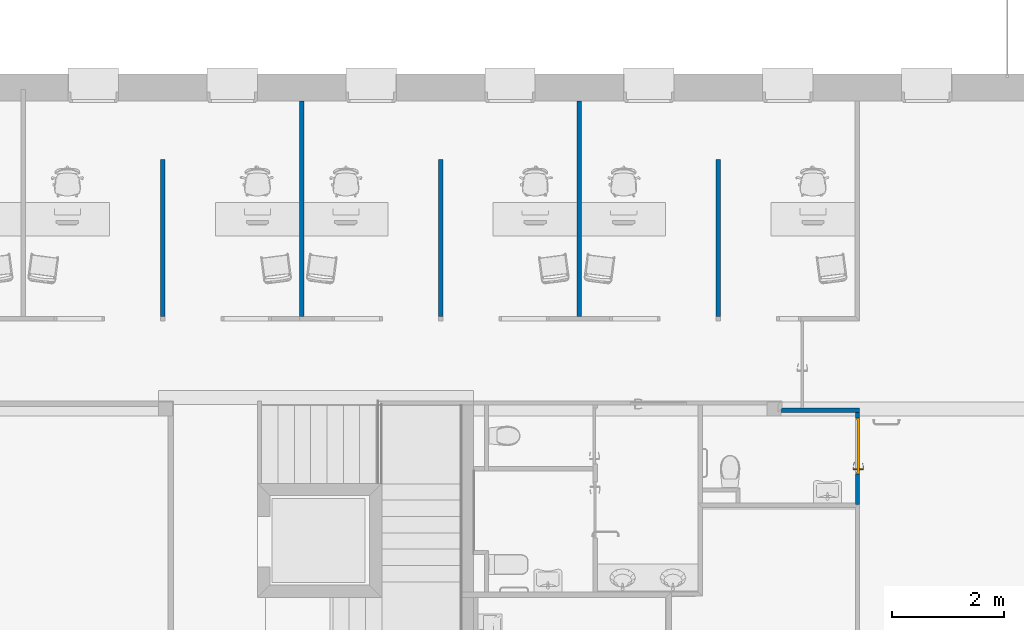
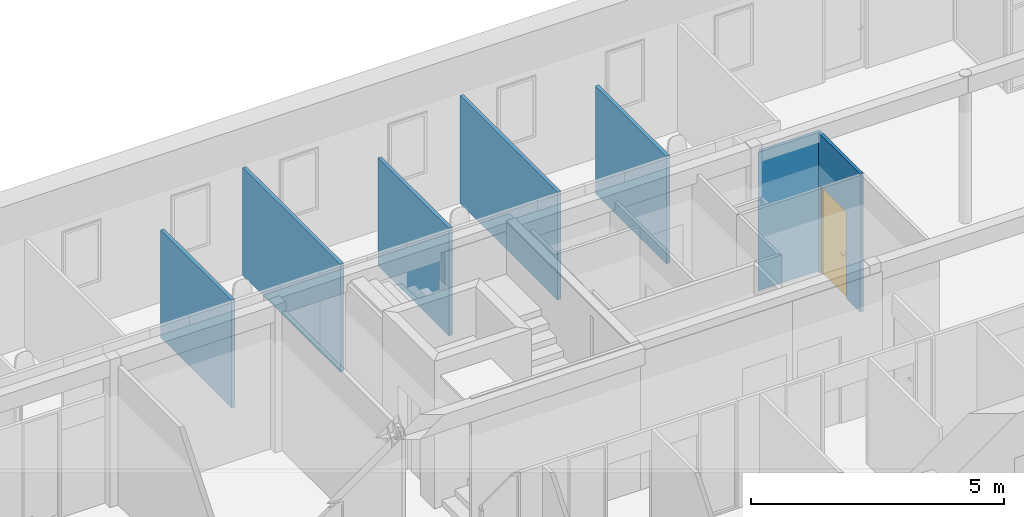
# One storey, part 26 of 91: 7 walls, 1 door, 1 opening.
"""IFC2X3 building model written with IfcOpenShell, lengths in metres."""

from ifc_helpers import new_model, entity, si_unit, converted_unit, derived_unit, money_unit, direction, frame, origin_with_axes, origin_2d_with_axis, place, context, subcontext, project, spatial, polyline, rectangle, outline, extrude, open_shell, faceted_brep, surface_model, source, transform, mapped, material, layer, layer_set, layer_usage, type_object, element, fill, save


model = new_model("IFC2X3")

# Units and contexts
model_context = context("Model", 3, precision=1e-05, world=origin_with_axes(), true_north=direction((0.0, 1.0)))
body_context = subcontext(model_context, "Body", "Model", "MODEL_VIEW")
ifc_project = project(units=[si_unit("LENGTHUNIT", "METRE"), si_unit("AREAUNIT", "SQUARE_METRE"), si_unit("VOLUMEUNIT", "CUBIC_METRE"), converted_unit("PLANEANGLEUNIT", "DEGREE", entity("IfcPlaneAngleMeasure", 0.0174532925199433), si_unit("PLANEANGLEUNIT", "RADIAN"), dimensions=[0, 0, 0, 0, 0, 0, 0]), money_unit("EUR"), converted_unit("TIMEUNIT", "Year", entity("IfcTimeMeasure", 31557600.0), si_unit("TIMEUNIT", "SECOND"), dimensions=[0, 0, 1, 0, 0, 0, 0]), si_unit("MASSUNIT", "GRAM", prefix="KILO"), si_unit("THERMODYNAMICTEMPERATUREUNIT", "DEGREE_CELSIUS"), si_unit("LUMINOUSINTENSITYUNIT", "LUMEN"), si_unit("ENERGYUNIT", "JOULE", prefix="MEGA"), derived_unit("THERMALCONDUCTANCEUNIT", [(si_unit("POWERUNIT", "WATT"), 1), (si_unit("LENGTHUNIT", "METRE"), -1), (si_unit("THERMODYNAMICTEMPERATUREUNIT", "KELVIN"), -1)]), derived_unit("SPECIFICHEATCAPACITYUNIT", [(si_unit("ENERGYUNIT", "JOULE"), 1), (si_unit("MASSUNIT", "GRAM", prefix="KILO"), -1), (si_unit("THERMODYNAMICTEMPERATUREUNIT", "KELVIN"), -1)]), derived_unit("MASSDENSITYUNIT", [(si_unit("MASSUNIT", "GRAM", prefix="KILO"), 1), (si_unit("VOLUMEUNIT", "CUBIC_METRE"), -1)])], contexts=[model_context])

# Site, building, storey
site_placement = place(None, origin_with_axes())
site = spatial("IfcSite", under=ifc_project, at=site_placement, Name="Site", CompositionType="ELEMENT")
building_placement = place(site_placement, origin_with_axes())
building = spatial("IfcBuilding", under=site, at=building_placement, Name="Bâtiment", CompositionType="ELEMENT")
storey_placement = place(building_placement, origin_with_axes())
storey = spatial("IfcBuildingStorey", under=building, at=storey_placement, Name="RDC", CompositionType="ELEMENT", Elevation=0.0)

# Wall
ifc_material_1 = material(Name="Finition int - Plaque de plâtre")
ifc_layer_1 = layer(ifc_material_1, 0.013, ventilated="UNKNOWN")
ifc_material_2 = material(Name="Isolation - Laine de verre")
ifc_layer_2 = layer(ifc_material_2, 0.048, ventilated="UNKNOWN")
ifc_layer_3 = layer(ifc_material_1, 0.013, ventilated="UNKNOWN")
ifc_layer_set_1 = layer_set([ifc_layer_1, ifc_layer_2, ifc_layer_3], Name="*Cloison 72")
ifc_layer_usage_1 = layer_usage(ifc_layer_set_1, "AXIS2", "POSITIVE", 0.0)
wall_type_1 = type_object("IfcWallType", Name="*Cloison 72 74", PredefinedType="NOTDEFINED")
wall_1_placement = place(storey_placement, frame((44.94299999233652, -16.74756236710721, 0.0), z_axis=(0.0, 0.0, 1.0), x_axis=(-1.0, 0.0, 0.0)))
element("IfcWallStandardCase", 1, at=wall_1_placement, inside=storey, type_object=wall_type_1, material=ifc_layer_usage_1, Name="Cloisons ép. 72mm", context=body_context, shape_type="SweptSolid", body=[
    extrude(outline(polyline([(0.0, 0.0), (1.383002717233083, 0.0), (1.457002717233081, 0.07400000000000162), (0.0, 0.07400000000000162), (0.0, 0.0)])), origin_with_axes(), (0.0, 0.0, 1.0), 3.34),
])

# Wall, opening, door
ifc_layer_usage_2 = layer_usage(ifc_layer_set_1, "AXIS2", "POSITIVE", 0.0)
wall_2_placement = place(storey_placement, frame((44.94299999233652, -18.46955971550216, 0.0), z_axis=(0.0, 0.0, 1.0), x_axis=(0.0, 1.0, 0.0)))
wall_2 = element("IfcWallStandardCase", 2, at=wall_2_placement, inside=storey, type_object=wall_type_1, material=ifc_layer_usage_2, Name="Cloisons ép. 72mm", context=body_context, shape_type="SweptSolid", body=[
    extrude(outline(polyline([(0.0, 0.0), (1.711995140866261, 0.0), (1.711995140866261, 0.07399999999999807), (0.0, 0.07399999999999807), (0.0, 0.0)])), origin_with_axes(), (0.0, 0.0, 1.0), 3.34),
])
opening_placement = place(wall_2_placement, frame((1.047999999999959, 0.0, 0.0), z_axis=(0.0, 0.0, 1.0), x_axis=(1.0, 0.0, 0.0)))
opening = element("IfcOpeningElement", 3, at=opening_placement, cuts=wall_2, Name="Pi.05", context=body_context, shape_type="SweptSolid", body=[
    extrude(rectangle(XDim=1.0, YDim=2.1, at=origin_2d_with_axis()), frame((0.0, 0.07399999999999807, 1.05), z_axis=(0.0, 1.0, 0.0), x_axis=(1.0, 0.0, 0.0)), (0.0, 0.0, -1.0), 0.222),
])
door_style = type_object("IfcDoorStyle", Name="Porte 27", ConstructionType="NOTDEFINED", OperationType="SINGLE_SWING_LEFT", ParameterTakesPrecedence=False, Sizeable=False)
shared_shape = source(origin_with_axes(), body_context, "Body", "SurfaceModel", [
    faceted_brep([(0.5, 0.0, 0.0), (0.5, -0.05, 0.0), (0.465, -0.05, 0.0), (0.465, 0.0, 0.0), (0.5, 0.0, 2.04), (0.5, -0.05, 2.04), (0.465, -0.05, 2.04), (0.465, 0.0, 2.04)], [[[0, 1, 2, 3]], [[4, 5, 1, 0]], [[1, 5, 6, 2]], [[3, 2, 6, 7]], [[0, 3, 7, 4]], [[7, 6, 5, 4]]]),
    faceted_brep([(-0.5, 0.0, 0.0), (-0.5, -0.05, 0.0), (-0.5, -0.05, 2.04), (-0.5, 0.0, 2.04), (-0.465, 0.0, 0.0), (-0.465, -0.05, 0.0), (-0.465, -0.05, 2.04), (-0.465, 0.0, 2.04)], [[[0, 1, 2, 3]], [[4, 5, 1, 0]], [[1, 5, 6, 2]], [[3, 2, 6, 7]], [[0, 3, 7, 4]], [[7, 6, 5, 4]]]),
    faceted_brep([(0.5, 0.0, 2.1), (0.5, -0.05, 2.1), (0.5, -0.05, 2.04), (0.5, 0.0, 2.04), (-0.5, 0.0, 2.1), (-0.5, -0.05, 2.1), (-0.5, -0.05, 2.04), (-0.465, -0.05, 2.04), (0.465, -0.05, 2.04), (0.465, 0.0, 2.04), (-0.465, 0.0, 2.04), (-0.5, 0.0, 2.04)], [[[0, 1, 2, 3]], [[4, 5, 1, 0]], [[1, 5, 6, 7, 8, 2]], [[3, 2, 8, 9]], [[0, 3, 9, 10, 11, 4]], [[11, 6, 5, 4]], [[10, 7, 6, 11]], [[9, 8, 7, 10]]]),
    faceted_brep([(0.4435, -0.04, 1.06), (0.3865, -0.04, 1.06), (0.3865, -0.043, 1.06), (0.4435, -0.043, 1.06), (0.4435, -0.04, 0.87), (0.3865, -0.04, 0.87), (0.3865, -0.043, 0.87), (0.4435, -0.043, 0.87)], [[[0, 1, 2, 3]], [[0, 4, 5, 1]], [[1, 5, 6, 2]], [[3, 2, 6, 7]], [[4, 0, 3, 7]], [[5, 4, 7, 6]]]),
    faceted_brep([(0.4149999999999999, -0.104, 0.99), (0.4199999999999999, -0.104, 0.9913397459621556), (0.4199999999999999, -0.111, 0.9913397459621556), (0.4149999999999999, -0.111, 0.99), (0.3899999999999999, -0.104, 0.99), (0.3899999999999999, -0.104, 1.01), (0.4149999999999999, -0.104, 1.01), (0.4199999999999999, -0.104, 1.008660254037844), (0.4236602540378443, -0.104, 1.005), (0.4249999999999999, -0.104, 1.0), (0.4236602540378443, -0.104, 0.995), (0.4236602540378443, -0.111, 0.995), (0.4249999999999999, -0.111, 1.0), (0.4236602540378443, -0.111, 1.005), (0.4199999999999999, -0.111, 1.008660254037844), (0.4149999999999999, -0.111, 1.01), (0.3899999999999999, -0.111, 1.01), (0.3899999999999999, -0.111, 0.99)], [[[0, 1, 2, 3]], [[0, 4, 5, 6, 7, 8, 9, 10, 1]], [[1, 10, 11, 2]], [[3, 2, 11, 12, 13, 14, 15, 16, 17]], [[4, 0, 3, 17]], [[5, 4, 17, 16]], [[6, 5, 16, 15]], [[7, 6, 15, 14]], [[8, 7, 14, 13]], [[9, 8, 13, 12]], [[10, 9, 12, 11]]]),
    surface_model("IfcShellBasedSurfaceModel", [(0.3899999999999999, -0.104, 1.01), (0.3769017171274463, -0.104, 1.009607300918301), (0.3765960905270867, -0.111, 1.009607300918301), (0.3899999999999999, -0.104, 0.99), (0.3769017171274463, -0.104, 0.9903926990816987), (0.349890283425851, -0.1086635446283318, 1.008821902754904), (0.3899999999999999, -0.111, 1.01), (0.3899999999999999, -0.111, 0.99), (0.3508048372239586, -0.1017168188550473, 0.9911780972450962), (0.3508048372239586, -0.1017168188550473, 1.008821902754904), (0.349890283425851, -0.1086635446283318, 0.9911780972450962), (0.3765960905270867, -0.111, 0.9903926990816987), (0.325006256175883, -0.09716783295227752, 0.9919634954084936), (0.325006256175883, -0.09716783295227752, 1.008036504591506), (0.3234897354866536, -0.104008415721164, 1.008036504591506), (0.3234897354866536, -0.104008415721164, 0.9919634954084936), (0.2997023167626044, -0.09038766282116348, 0.9927488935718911), (0.2997023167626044, -0.09038766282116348, 1.007251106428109), (0.2975953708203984, -0.09707004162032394, 1.007251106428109), (0.2975953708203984, -0.09707004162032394, 0.9927488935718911), (0.2918294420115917, -0.08752217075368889, 0.993), (0.2918294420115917, -0.08752217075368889, 1.007), (0.2895387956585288, -0.09413768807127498, 1.007), (0.2895387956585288, -0.09413768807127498, 0.993)], [open_shell([[[0, 1, 2]], [[0, 3, 4, 1]], [[1, 5, 2]], [[0, 2, 6]], [[4, 3, 7]], [[1, 4, 8, 9]], [[1, 9, 5]], [[2, 5, 10, 11]], [[6, 2, 11, 7]], [[4, 7, 11]], [[8, 4, 11]], [[9, 8, 12, 13]], [[9, 14, 5]], [[5, 14, 15, 10]], [[8, 11, 10]], [[12, 8, 10]], [[13, 12, 16, 17]], [[9, 13, 14]], [[14, 18, 19, 15]], [[12, 10, 15]], [[16, 12, 15]], [[17, 16, 20, 21]], [[13, 17, 18]], [[13, 18, 14]], [[18, 22, 23, 19]], [[16, 15, 19]], [[20, 16, 19]], [[21, 20, 23, 22]], [[17, 21, 22]], [[17, 22, 18]], [[20, 19, 23]]])]),
    faceted_brep([(0.4046076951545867, -0.05300000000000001, 0.994), (0.4029999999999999, -0.05300000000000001, 1.0), (0.4019999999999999, -0.043, 1.0), (0.4037416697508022, -0.043, 0.9935), (0.4089999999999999, -0.05300000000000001, 0.9896076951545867), (0.4149999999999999, -0.05300000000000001, 0.988), (0.4209999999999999, -0.05300000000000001, 0.9896076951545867), (0.4253923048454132, -0.05300000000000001, 0.994), (0.4269999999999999, -0.05300000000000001, 1.0), (0.4253923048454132, -0.05300000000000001, 1.006), (0.4209999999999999, -0.05300000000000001, 1.010392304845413), (0.4149999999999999, -0.05300000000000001, 1.012), (0.4089999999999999, -0.05300000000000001, 1.010392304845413), (0.4046076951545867, -0.05300000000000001, 1.006), (0.4037416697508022, -0.043, 1.0065), (0.4084999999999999, -0.043, 1.011258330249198), (0.4149999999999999, -0.043, 1.013), (0.4214999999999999, -0.043, 1.011258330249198), (0.4262583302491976, -0.043, 1.0065), (0.4279999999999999, -0.043, 1.0), (0.4262583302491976, -0.043, 0.9934999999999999), (0.4214999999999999, -0.043, 0.9887416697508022), (0.4149999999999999, -0.043, 0.987), (0.4084999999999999, -0.043, 0.9887416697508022)], [[[0, 1, 2, 3]], [[1, 0, 4, 5, 6, 7, 8, 9, 10, 11, 12, 13]], [[1, 13, 14, 2]], [[2, 14, 15, 16, 17, 18, 19, 20, 21, 22, 23, 3]], [[4, 0, 3, 23]], [[5, 4, 23, 22]], [[6, 5, 22, 21]], [[7, 6, 21, 20]], [[8, 7, 20, 19]], [[9, 8, 19, 18]], [[10, 9, 18, 17]], [[11, 10, 17, 16]], [[12, 11, 16, 15]], [[13, 12, 15, 14]]]),
    faceted_brep([(0.3976794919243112, -0.04700000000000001, 0.895), (0.3949999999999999, -0.04700000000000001, 0.905), (0.3929999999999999, -0.043, 0.905), (0.3959474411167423, -0.04300000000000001, 0.894), (0.4049999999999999, -0.04700000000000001, 0.8876794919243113), (0.4149999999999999, -0.04700000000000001, 0.885), (0.4249999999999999, -0.04700000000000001, 0.8876794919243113), (0.4323205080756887, -0.04700000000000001, 0.895), (0.4349999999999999, -0.04700000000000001, 0.905), (0.4323205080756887, -0.04700000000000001, 0.915), (0.4249999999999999, -0.04700000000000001, 0.9223205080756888), (0.4149999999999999, -0.04700000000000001, 0.925), (0.4049999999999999, -0.04700000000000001, 0.9223205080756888), (0.3976794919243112, -0.04700000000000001, 0.915), (0.3959474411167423, -0.043, 0.916), (0.4039999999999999, -0.043, 0.9240525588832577), (0.4149999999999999, -0.043, 0.927), (0.4259999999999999, -0.04300000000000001, 0.9240525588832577), (0.4340525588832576, -0.04300000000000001, 0.916), (0.4369999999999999, -0.04300000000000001, 0.905), (0.4340525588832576, -0.04300000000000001, 0.894), (0.4259999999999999, -0.04300000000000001, 0.8859474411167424), (0.4149999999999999, -0.04300000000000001, 0.883), (0.4039999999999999, -0.04300000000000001, 0.8859474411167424)], [[[0, 1, 2, 3]], [[1, 0, 4, 5, 6, 7, 8, 9, 10, 11, 12, 13]], [[1, 13, 14, 2]], [[2, 14, 15, 16, 17, 18, 19, 20, 21, 22, 23, 3]], [[4, 0, 3, 23]], [[5, 4, 23, 22]], [[6, 5, 22, 21]], [[7, 6, 21, 20]], [[8, 7, 20, 19]], [[9, 8, 19, 18]], [[10, 9, 18, 17]], [[11, 10, 17, 16]], [[12, 11, 16, 15]], [[13, 12, 15, 14]]]),
    faceted_brep([(0.4100502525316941, -0.04900000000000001, 0.9090502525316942), (0.4079999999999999, -0.04900000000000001, 0.914), (0.4069999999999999, -0.04700000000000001, 0.914), (0.4093431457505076, -0.04700000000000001, 0.9083431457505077), (0.4149999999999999, -0.04900000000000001, 0.907), (0.4199497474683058, -0.04900000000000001, 0.9090502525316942), (0.4219999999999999, -0.04900000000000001, 0.914), (0.4199497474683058, -0.04900000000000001, 0.9189497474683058), (0.4149999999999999, -0.04900000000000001, 0.921), (0.4100502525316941, -0.04900000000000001, 0.9189497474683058), (0.4093431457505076, -0.04700000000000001, 0.9196568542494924), (0.4149999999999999, -0.04700000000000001, 0.922), (0.4206568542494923, -0.04700000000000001, 0.9196568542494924), (0.4229999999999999, -0.04700000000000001, 0.914), (0.4206568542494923, -0.04700000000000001, 0.9083431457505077), (0.4149999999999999, -0.04700000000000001, 0.906)], [[[0, 1, 2, 3]], [[1, 0, 4, 5, 6, 7, 8, 9]], [[1, 9, 10, 2]], [[2, 10, 11, 12, 13, 14, 15, 3]], [[4, 0, 3, 15]], [[5, 4, 15, 14]], [[6, 5, 14, 13]], [[7, 6, 13, 12]], [[8, 7, 12, 11]], [[9, 8, 11, 10]]]),
    faceted_brep([(0.4149999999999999, -0.05300000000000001, 1.01), (0.4099999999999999, -0.05300000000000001, 1.008660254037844), (0.4099999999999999, -0.104, 1.008660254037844), (0.4149999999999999, -0.104, 1.01), (0.4199999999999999, -0.05300000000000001, 1.008660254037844), (0.4236602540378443, -0.05300000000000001, 1.005), (0.4249999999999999, -0.05300000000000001, 1.0), (0.4236602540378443, -0.05300000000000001, 0.995), (0.4199999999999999, -0.05300000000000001, 0.9913397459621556), (0.4149999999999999, -0.05300000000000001, 0.99), (0.4099999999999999, -0.05300000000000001, 0.9913397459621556), (0.4063397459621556, -0.05300000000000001, 0.995), (0.4049999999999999, -0.05300000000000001, 1.0), (0.4063397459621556, -0.05300000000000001, 1.005), (0.4063397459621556, -0.104, 1.005), (0.4049999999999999, -0.104, 1.0), (0.4063397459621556, -0.104, 0.995), (0.4099999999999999, -0.104, 0.9913397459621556), (0.4149999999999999, -0.104, 0.99), (0.4199999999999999, -0.104, 0.9913397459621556), (0.4236602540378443, -0.104, 0.995), (0.4249999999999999, -0.104, 1.0), (0.4236602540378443, -0.104, 1.005), (0.4199999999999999, -0.104, 1.008660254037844)], [[[0, 1, 2, 3]], [[0, 4, 5, 6, 7, 8, 9, 10, 11, 12, 13, 1]], [[1, 13, 14, 2]], [[3, 2, 14, 15, 16, 17, 18, 19, 20, 21, 22, 23]], [[4, 0, 3, 23]], [[5, 4, 23, 22]], [[6, 5, 22, 21]], [[7, 6, 21, 20]], [[8, 7, 20, 19]], [[9, 8, 19, 18]], [[10, 9, 18, 17]], [[11, 10, 17, 16]], [[12, 11, 16, 15]], [[13, 12, 15, 14]]]),
    faceted_brep([(0.4434999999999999, 0.0, 1.06), (0.4434999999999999, 0.003000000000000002, 1.06), (0.3864999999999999, 0.002999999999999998, 1.06), (0.3864999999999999, 0.0, 1.06), (0.4434999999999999, 0.0, 0.87), (0.4434999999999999, 0.003000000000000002, 0.87), (0.3864999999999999, 0.002999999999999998, 0.87), (0.3864999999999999, 0.0, 0.87)], [[[0, 1, 2, 3]], [[4, 5, 1, 0]], [[1, 5, 6, 2]], [[3, 2, 6, 7]], [[0, 3, 7, 4]], [[7, 6, 5, 4]]]),
    faceted_brep([(0.4149999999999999, 0.064, 0.99), (0.4149999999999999, 0.07100000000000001, 0.99), (0.4199999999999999, 0.07100000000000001, 0.9913397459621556), (0.4199999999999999, 0.064, 0.9913397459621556), (0.3899999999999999, 0.064, 0.99), (0.3899999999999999, 0.071, 0.99), (0.3899999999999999, 0.071, 1.01), (0.4149999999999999, 0.07100000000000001, 1.01), (0.4199999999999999, 0.07100000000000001, 1.008660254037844), (0.4236602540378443, 0.07100000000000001, 1.005), (0.4249999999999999, 0.07100000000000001, 1.0), (0.4236602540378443, 0.07100000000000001, 0.995), (0.4236602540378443, 0.064, 0.995), (0.4249999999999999, 0.064, 1.0), (0.4236602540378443, 0.064, 1.005), (0.4199999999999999, 0.064, 1.008660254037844), (0.4149999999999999, 0.064, 1.01), (0.3899999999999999, 0.064, 1.01)], [[[0, 1, 2, 3]], [[4, 5, 1, 0]], [[1, 5, 6, 7, 8, 9, 10, 11, 2]], [[3, 2, 11, 12]], [[0, 3, 12, 13, 14, 15, 16, 17, 4]], [[17, 6, 5, 4]], [[16, 7, 6, 17]], [[15, 8, 7, 16]], [[14, 9, 8, 15]], [[13, 10, 9, 14]], [[12, 11, 10, 13]]]),
    surface_model("IfcShellBasedSurfaceModel", [(0.3899999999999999, 0.064, 1.01), (0.3765960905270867, 0.071, 1.009607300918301), (0.3769017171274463, 0.064, 1.009607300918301), (0.3899999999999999, 0.07100000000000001, 1.01), (0.349890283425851, 0.06866354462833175, 1.008821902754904), (0.3769017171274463, 0.064, 0.9903926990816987), (0.3899999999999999, 0.064, 0.99), (0.3899999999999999, 0.07100000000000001, 0.99), (0.3765960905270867, 0.071, 0.9903926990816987), (0.349890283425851, 0.06866354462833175, 0.9911780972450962), (0.3508048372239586, 0.06171681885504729, 1.008821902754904), (0.3508048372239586, 0.06171681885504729, 0.9911780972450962), (0.3234897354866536, 0.064008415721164, 0.9919634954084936), (0.3234897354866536, 0.064008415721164, 1.008036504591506), (0.325006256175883, 0.05716783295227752, 1.008036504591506), (0.325006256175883, 0.05716783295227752, 0.9919634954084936), (0.2975953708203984, 0.05707004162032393, 0.9927488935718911), (0.2975953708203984, 0.05707004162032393, 1.007251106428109), (0.2997023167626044, 0.05038766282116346, 1.007251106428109), (0.2997023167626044, 0.05038766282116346, 0.9927488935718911), (0.2895387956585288, 0.05413768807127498, 0.993), (0.2895387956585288, 0.05413768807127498, 1.007), (0.2918294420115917, 0.04752217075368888, 1.007), (0.2918294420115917, 0.04752217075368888, 0.993)], [open_shell([[[0, 1, 2]], [[0, 3, 1]], [[2, 1, 4]], [[0, 2, 5, 6]], [[3, 7, 8, 1]], [[1, 8, 9, 4]], [[2, 4, 10]], [[2, 10, 11, 5]], [[5, 7, 6]], [[5, 8, 7]], [[11, 9, 8]], [[4, 9, 12, 13]], [[10, 4, 13]], [[10, 14, 15, 11]], [[11, 8, 5]], [[15, 9, 11]], [[15, 12, 9]], [[13, 12, 16, 17]], [[10, 13, 14]], [[14, 18, 19, 15]], [[19, 12, 15]], [[19, 16, 12]], [[17, 16, 20, 21]], [[14, 13, 17]], [[14, 17, 18]], [[18, 22, 23, 19]], [[23, 16, 19]], [[23, 20, 16]], [[22, 21, 20, 23]], [[18, 17, 21]], [[18, 21, 22]]])]),
    faceted_brep([(0.4046076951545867, 0.013, 0.994), (0.4037416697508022, 0.003, 0.9935), (0.4019999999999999, 0.002999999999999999, 1.0), (0.4029999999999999, 0.013, 1.0), (0.4089999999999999, 0.013, 0.9896076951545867), (0.4084999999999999, 0.003, 0.9887416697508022), (0.4149999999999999, 0.003000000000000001, 0.987), (0.4214999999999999, 0.003000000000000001, 0.9887416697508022), (0.4262583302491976, 0.003000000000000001, 0.9934999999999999), (0.4279999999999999, 0.003000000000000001, 1.0), (0.4262583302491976, 0.003, 1.0065), (0.4214999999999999, 0.003, 1.011258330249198), (0.4149999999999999, 0.002999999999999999, 1.013), (0.4084999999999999, 0.002999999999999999, 1.011258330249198), (0.4037416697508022, 0.002999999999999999, 1.0065), (0.4046076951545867, 0.013, 1.006), (0.4089999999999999, 0.013, 1.010392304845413), (0.4149999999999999, 0.013, 1.012), (0.4209999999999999, 0.013, 1.010392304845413), (0.4253923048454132, 0.013, 1.006), (0.4269999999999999, 0.013, 1.0), (0.4253923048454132, 0.013, 0.994), (0.4209999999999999, 0.013, 0.9896076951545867), (0.4149999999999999, 0.013, 0.988)], [[[0, 1, 2, 3]], [[4, 5, 1, 0]], [[2, 1, 5, 6, 7, 8, 9, 10, 11, 12, 13, 14]], [[3, 2, 14, 15]], [[3, 15, 16, 17, 18, 19, 20, 21, 22, 23, 4, 0]], [[23, 6, 5, 4]], [[22, 7, 6, 23]], [[21, 8, 7, 22]], [[20, 9, 8, 21]], [[19, 10, 9, 20]], [[18, 11, 10, 19]], [[17, 12, 11, 18]], [[16, 13, 12, 17]], [[15, 14, 13, 16]]]),
    faceted_brep([(0.3976794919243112, 0.007000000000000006, 0.895), (0.3959474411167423, 0.003000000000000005, 0.894), (0.3929999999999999, 0.003000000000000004, 0.905), (0.3949999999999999, 0.007000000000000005, 0.905), (0.4049999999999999, 0.007000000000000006, 0.8876794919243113), (0.4039999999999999, 0.003000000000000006, 0.8859474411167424), (0.4149999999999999, 0.003000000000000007, 0.883), (0.4259999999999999, 0.003000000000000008, 0.8859474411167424), (0.4340525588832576, 0.003000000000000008, 0.894), (0.4369999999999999, 0.003000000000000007, 0.905), (0.4340525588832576, 0.003000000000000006, 0.916), (0.4259999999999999, 0.003000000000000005, 0.9240525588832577), (0.4149999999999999, 0.003000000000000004, 0.927), (0.4039999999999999, 0.003000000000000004, 0.9240525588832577), (0.3959474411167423, 0.003000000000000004, 0.916), (0.3976794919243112, 0.007000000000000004, 0.915), (0.4049999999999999, 0.007000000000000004, 0.9223205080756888), (0.4149999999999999, 0.007000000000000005, 0.925), (0.4249999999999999, 0.007000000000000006, 0.9223205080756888), (0.4323205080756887, 0.007000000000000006, 0.915), (0.4349999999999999, 0.007000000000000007, 0.905), (0.4323205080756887, 0.007000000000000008, 0.895), (0.4249999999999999, 0.007000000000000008, 0.8876794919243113), (0.4149999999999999, 0.007000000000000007, 0.885)], [[[0, 1, 2, 3]], [[4, 5, 1, 0]], [[2, 1, 5, 6, 7, 8, 9, 10, 11, 12, 13, 14]], [[3, 2, 14, 15]], [[3, 15, 16, 17, 18, 19, 20, 21, 22, 23, 4, 0]], [[23, 6, 5, 4]], [[22, 7, 6, 23]], [[21, 8, 7, 22]], [[20, 9, 8, 21]], [[19, 10, 9, 20]], [[18, 11, 10, 19]], [[17, 12, 11, 18]], [[16, 13, 12, 17]], [[15, 14, 13, 16]]]),
    faceted_brep([(0.4100502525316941, 0.009000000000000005, 0.9090502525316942), (0.4093431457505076, 0.007000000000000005, 0.9083431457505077), (0.4069999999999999, 0.007000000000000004, 0.914), (0.4079999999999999, 0.009000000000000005, 0.914), (0.4149999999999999, 0.009000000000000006, 0.907), (0.4149999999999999, 0.007000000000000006, 0.906), (0.4206568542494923, 0.007000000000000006, 0.9083431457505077), (0.4229999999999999, 0.007000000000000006, 0.914), (0.4206568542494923, 0.007000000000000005, 0.9196568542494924), (0.4149999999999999, 0.007000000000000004, 0.922), (0.4093431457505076, 0.007000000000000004, 0.9196568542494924), (0.4100502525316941, 0.009000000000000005, 0.9189497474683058), (0.4149999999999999, 0.009000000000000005, 0.921), (0.4199497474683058, 0.009000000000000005, 0.9189497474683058), (0.4219999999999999, 0.009000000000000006, 0.914), (0.4199497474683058, 0.009000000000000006, 0.9090502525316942)], [[[0, 1, 2, 3]], [[4, 5, 1, 0]], [[2, 1, 5, 6, 7, 8, 9, 10]], [[3, 2, 10, 11]], [[3, 11, 12, 13, 14, 15, 4, 0]], [[15, 6, 5, 4]], [[14, 7, 6, 15]], [[13, 8, 7, 14]], [[12, 9, 8, 13]], [[11, 10, 9, 12]]]),
    faceted_brep([(0.4149999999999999, 0.013, 1.01), (0.4149999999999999, 0.064, 1.01), (0.4099999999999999, 0.064, 1.008660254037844), (0.4099999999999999, 0.013, 1.008660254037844), (0.4199999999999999, 0.013, 1.008660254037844), (0.4199999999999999, 0.064, 1.008660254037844), (0.4236602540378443, 0.064, 1.005), (0.4249999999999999, 0.064, 1.0), (0.4236602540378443, 0.064, 0.995), (0.4199999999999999, 0.064, 0.9913397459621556), (0.4149999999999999, 0.064, 0.99), (0.4099999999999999, 0.064, 0.9913397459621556), (0.4063397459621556, 0.064, 0.995), (0.4049999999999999, 0.064, 1.0), (0.4063397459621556, 0.064, 1.005), (0.4063397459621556, 0.013, 1.005), (0.4049999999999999, 0.013, 1.0), (0.4063397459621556, 0.013, 0.995), (0.4099999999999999, 0.013, 0.9913397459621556), (0.4149999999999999, 0.013, 0.99), (0.4199999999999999, 0.013, 0.9913397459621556), (0.4236602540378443, 0.013, 0.995), (0.4249999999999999, 0.013, 1.0), (0.4236602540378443, 0.013, 1.005)], [[[0, 1, 2, 3]], [[4, 5, 1, 0]], [[1, 5, 6, 7, 8, 9, 10, 11, 12, 13, 14, 2]], [[3, 2, 14, 15]], [[0, 3, 15, 16, 17, 18, 19, 20, 21, 22, 23, 4]], [[23, 6, 5, 4]], [[22, 7, 6, 23]], [[21, 8, 7, 22]], [[20, 9, 8, 21]], [[19, 10, 9, 20]], [[18, 11, 10, 19]], [[17, 12, 11, 18]], [[16, 13, 12, 17]], [[15, 14, 13, 16]]]),
    faceted_brep([(-0.465, 0.0, 0.0), (0.465, 0.0, 0.0), (0.465, -0.04, 0.0), (-0.465, -0.04, 0.0), (-0.465, 0.0, 2.04), (0.465, 0.0, 2.04), (0.465, -0.04000000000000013, 2.04), (-0.465, -0.04000000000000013, 2.04)], [[[0, 1, 2, 3]], [[0, 4, 5, 1]], [[1, 5, 6, 2]], [[3, 2, 6, 7]], [[4, 0, 3, 7]], [[5, 4, 7, 6]]]),
])
door_placement = place(opening_placement, frame((0.5, 0.0, 0.0), z_axis=(0.0, 0.0, 1.0), x_axis=(-1.0, 0.0, 0.0)))
door = element("IfcDoor", 4, at=door_placement, inside=storey, type_object=door_style, Name="Pi.05", OverallHeight=2.1, OverallWidth=1.0, context=body_context, shape_type="MappedRepresentation", body=[
    mapped(shared_shape, transform((0.5, 0.0, 0.0))),
])
fill(opening, door)

# Walls
ifc_material_3 = material(Name="*PLAQUE DE PLATRE - CLOISON")
ifc_layer_4 = layer(ifc_material_3, 0.08, ventilated="UNKNOWN")
ifc_layer_set_2 = layer_set([ifc_layer_4], Name="*PLAQUE DE PLATRE - CLOISON 0.08")
ifc_layer_usage_3 = layer_usage(ifc_layer_set_2, "AXIS2", "NEGATIVE", 0.0)
wall_type_2 = type_object("IfcWallType", Name="*PLAQUE DE PLATRE - CLOISON 80", PredefinedType="NOTDEFINED")
wall_3_placement = place(storey_placement, frame((39.90299999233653, -15.11356213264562, 0.0), z_axis=(0.0, 0.0, 1.0), x_axis=(0.0, 1.0, 0.0)))
element("IfcWallStandardCase", 5, at=wall_3_placement, inside=storey, type_object=wall_type_2, material=ifc_layer_usage_3, Name="Cloison modulaire", context=body_context, shape_type="SweptSolid", body=[
    extrude(outline(polyline([(0.0, -0.0799999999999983), (3.856000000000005, -0.0799999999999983), (3.856000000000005, 0.0), (0.0, 0.0), (0.0, -0.0799999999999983)])), origin_with_axes(), (0.0, 0.0, 1.0), 2.6),
])
ifc_layer_usage_4 = layer_usage(ifc_layer_set_2, "AXIS2", "POSITIVE", 0.0)
wall_4_placement = place(storey_placement, frame((42.46299999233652, -15.11356213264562, 0.0), z_axis=(0.0, 0.0, 1.0), x_axis=(0.0, 1.0, 0.0)))
element("IfcWallStandardCase", 6, at=wall_4_placement, inside=storey, type_object=wall_type_2, material=ifc_layer_usage_4, Name="Cloison modulaire", context=body_context, shape_type="SweptSolid", body=[
    extrude(outline(polyline([(0.0, 0.0), (2.806000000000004, 0.0), (2.806000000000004, 0.0799999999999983), (0.0, 0.0799999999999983), (0.0, 0.0)])), origin_with_axes(), (0.0, 0.0, 1.0), 2.6),
])
ifc_layer_usage_5 = layer_usage(ifc_layer_set_2, "AXIS2", "POSITIVE", 0.0)
wall_5_placement = place(storey_placement, frame((37.50299999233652, -15.11356213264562, 0.0), z_axis=(0.0, 0.0, 1.0), x_axis=(0.0, 1.0, 0.0)))
element("IfcWallStandardCase", 7, at=wall_5_placement, inside=storey, type_object=wall_type_2, material=ifc_layer_usage_5, Name="Cloison modulaire", context=body_context, shape_type="SweptSolid", body=[
    extrude(outline(polyline([(0.0, 0.0), (2.806000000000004, 0.0), (2.806000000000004, 0.0799999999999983), (0.0, 0.0799999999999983), (0.0, 0.0)])), origin_with_axes(), (0.0, 0.0, 1.0), 2.6),
])
ifc_layer_usage_6 = layer_usage(ifc_layer_set_2, "AXIS2", "NEGATIVE", 0.0)
wall_6_placement = place(storey_placement, frame((34.94299999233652, -15.11356213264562, 0.0), z_axis=(0.0, 0.0, 1.0), x_axis=(0.0, 1.0, 0.0)))
element("IfcWallStandardCase", 8, at=wall_6_placement, inside=storey, type_object=wall_type_2, material=ifc_layer_usage_6, Name="Cloison modulaire", context=body_context, shape_type="SweptSolid", body=[
    extrude(outline(polyline([(0.0, -0.0799999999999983), (3.856000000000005, -0.0799999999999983), (3.856000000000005, 0.0), (0.0, 0.0), (0.0, -0.0799999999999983)])), origin_with_axes(), (0.0, 0.0, 1.0), 2.6),
])
ifc_layer_usage_7 = layer_usage(ifc_layer_set_2, "AXIS2", "POSITIVE", 0.0)
wall_7_placement = place(storey_placement, frame((32.54299999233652, -15.11356213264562, 0.0), z_axis=(0.0, 0.0, 1.0), x_axis=(0.0, 1.0, 0.0)))
element("IfcWallStandardCase", 9, at=wall_7_placement, inside=storey, type_object=wall_type_2, material=ifc_layer_usage_7, Name="Cloison modulaire", context=body_context, shape_type="SweptSolid", body=[
    extrude(outline(polyline([(0.0, 0.0), (2.806000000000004, 0.0), (2.806000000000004, 0.0799999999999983), (0.0, 0.0799999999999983), (0.0, 0.0)])), origin_with_axes(), (0.0, 0.0, 1.0), 2.6),
])

save(model, "model.ifc")
